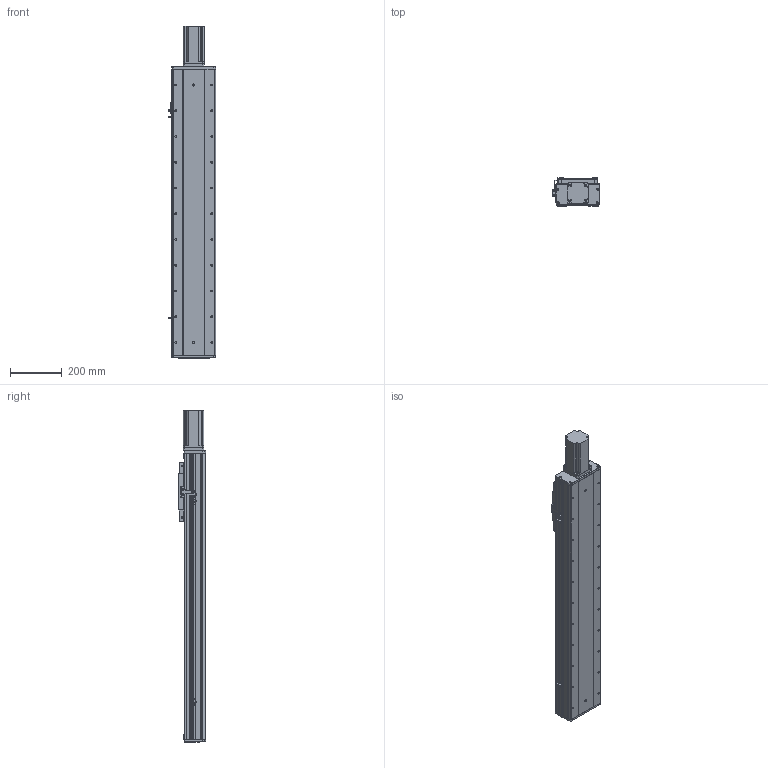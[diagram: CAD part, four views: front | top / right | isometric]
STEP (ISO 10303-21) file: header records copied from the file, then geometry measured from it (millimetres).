
FILE_DESCRIPTION (( 'STEP AP203' ), '1' );
FILE_NAME ('RY170F-L2020-300-MK.SLDASM_800.step', '2021-03-02T06:31:37', ( '盈信电脑' ), ( '东莞市道滘镇水果街19号' ), 'SwSTEP 2.0', 'SolidWorks 2012', '' );
FILE_SCHEMA (( 'CONFIG_CONTROL_DESIGN' ));
Products named in the file (22): RY170F-L2020-300-MK.SLDASM_800; 750W萇儂梓袧蛌諉啣; 侐源滅袉蝶; 覜茼ん674; 怢湛750W萇儂ㄗ80遺ㄘ; RY170F-揤踡謫假蚾粣; 滅袉蝶18-24; RY170F-詩湍揤踡輸; RY100F-詩湍揤踡謫; 覜茼ん672; RY170F-后盖板(铝件）; RY170F俋离覜茼え; 15; 滅袉蝶18-10; 侂狟400W侜督萇儂; RY170F-直连前盖板(铝件）; RY170F-滅鳥奻裔; RY170F-300眻蟀倰第奻裔啣-MK_800; RY170F-佪裝臏賑輸20蹟譫; RY170F-丝杆铝滑块连接板; RY170F-300眻蟀倰第菁釱-MK_800; RY170F-300眻蟀祥凄詩湍-MK_800
Assembly tree (26 placements, depth 3):
  RY170F-L2020-300-MK.SLDASM_800
    RY170F-300眻蟀倰第菁釱-MK_800
    RY170F-300眻蟀祥凄詩湍-MK_800
    RY170F-300眻蟀倰第奻裔啣-MK_800  x2
    RY170F-滅鳥奻裔
    RY170F-佪裝臏賑輸20蹟譫
    RY170F-丝杆铝滑块连接板
    侂狟400W侜督萇儂
      15
    RY170F-直连前盖板(铝件）
    滅袉蝶18-10
    RY100F-詩湍揤踡謫
    RY170F-后盖板(铝件）
    覜茼ん672  x3
    RY170F俋离覜茼え
    RY170F-揤踡謫假蚾粣
    RY170F-詩湍揤踡輸  x2
    滅袉蝶18-24
    750W萇儂梓袧蛌諉啣
    怢湛750W萇儂ㄗ80遺ㄘ
    侐源滅袉蝶  x2
    覜茼ん674
Bounding box: 183.7 x 107 x 1289 mm (x, y, z)
Volume: 6886652.9 mm3; surface area: 2134697.1 mm2
Topology: 25 solids, 25 shells, 2272 faces, 6255 edges, 3998 vertices
Faces by surface type: cylinder 1013, plane 1001, cone 240, bspline 18
Entity records: 66583 total; most frequent: CARTESIAN_POINT 13109, DIRECTION 10949, ORIENTED_EDGE 10446, EDGE_CURVE 5223, AXIS2_PLACEMENT_3D 3904, VERTEX_POINT 3418, LINE 3141, VECTOR 3141
